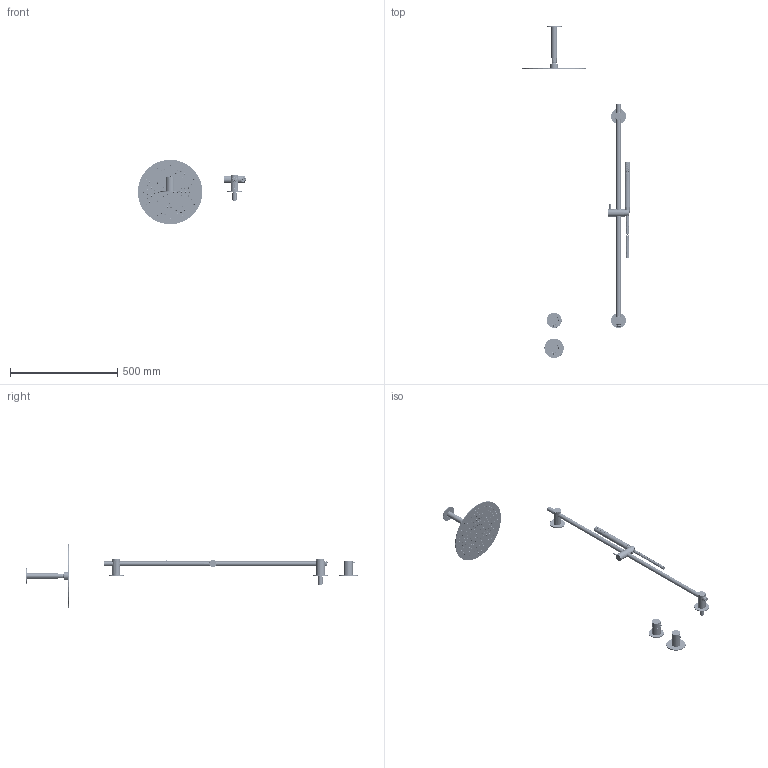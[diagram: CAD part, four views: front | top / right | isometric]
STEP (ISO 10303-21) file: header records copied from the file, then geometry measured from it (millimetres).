
FILE_DESCRIPTION((''),'2;1');
FILE_NAME('57073--_ASM','2025-06-26T14:18:25',('simi1'),(''),'CREO PARAMETRIC BY PTC INC, 2022244','CREO PARAMETRIC BY PTC INC, 2022244','');
FILE_SCHEMA(('CONFIG_CONTROL_DESIGN'));
Products named in the file (121): 46372--_1_1_2_3_4_5_6; 4396500_1_1_2_3_4_5_6; 4668000_1_1_2_3_4_5_6; 46373--_ASM_1_1_2_3_4_5_6_ASM; 44978--_1_1_2_3_4_5_6; 4642300_1_1_2_3_4_5_6; 4498000_1_1_2_3_4_5_6; 46498--_ASM_1_1_2_3_4_5_6_ASM; 46022--_1_1_2_3_4_5_6; 4600600_1_1_2_3_4_5_6; 1904300_1_1_2_3_4_5_6; 44986--_1_1_2_3_4_5_6; 4498800_1_1_2_3_4_5_6; 44989--_ASM_1_1_2_3_4_5_6_ASM; 4648800_1_1_2_3_4_5_6; 4642285_1_1_2_3_4_5_6; 76709--00_SUB01_ASM_1_1_2_3_4_6_ASM; 46493--_1_1_2_3_4; 4636100_1_1_2_3_4_5_6; 46494--_ASM_1_1_2_3_4_ASM; 4498500_1_1_2_3_4_5_6; 4653500_1_1_2_3_4; 46499--_ASM_1_1_2_3_4_ASM; 44979--_1_1_2_3_4_5_6; 44987--_1_1_2_3_4_5_6; 44990--_ASM_1_1_2_3_4_5_6_ASM; 4498300_1_1_2_3_4_5_6; 4625100_1_1_2_3_4_5_6; 76710--00_SUB01_ASM_1_1_2_3_4_ASM; 4443500_1_1_2; 4424300_1_1_2_3_4_5_6; 44246--_ASM_1_1_2_ASM; 46627--_1_1_2_3_4_5_6; 4443300_1_1_2_3_4_5_6; 76618--00_ASM_1_1_2_ASM; P32600-001_2_1_1_2_3_4_5_6_7; SPRAYPLATE_1_1_2_3_4_5_6_7; P32500-015_7_1_1_2_3_4_5_6_7; SPRAYPLATE_ASSY_ASM_1_1_2_3_4_7_ASM; P10100-003_2_1_1_2_3_4_5_6_7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
Assembly tree (299 placements, depth 7):
  57073--_ASM
    57070--_ASM_1_1_ASM
      76709--00_SUB01_ASM_1_1_2_3_4_6_ASM
        46373--_ASM_1_1_2_3_4_5_6_ASM
          46372--_1_1_2_3_4_5_6
          4396500_1_1_2_3_4_5_6
          4668000_1_1_2_3_4_5_6
        46498--_ASM_1_1_2_3_4_5_6_ASM
          44978--_1_1_2_3_4_5_6
          4642300_1_1_2_3_4_5_6
          4498000_1_1_2_3_4_5_6
        44989--_ASM_1_1_2_3_4_5_6_ASM
          46022--_1_1_2_3_4_5_6
          4600600_1_1_2_3_4_5_6
          1904300_1_1_2_3_4_5_6
          44986--_1_1_2_3_4_5_6
          4498800_1_1_2_3_4_5_6
        4648800_1_1_2_3_4_5_6
        4642285_1_1_2_3_4_5_6
      76710--00_SUB01_ASM_1_1_2_3_4_ASM
        46494--_ASM_1_1_2_3_4_ASM
          46493--_1_1_2_3_4
          4396500_1_1_2_3_4_5_6
          4636100_1_1_2_3_4_5_6
        46499--_ASM_1_1_2_3_4_ASM
          44978--_1_1_2_3_4_5_6
          4498500_1_1_2_3_4_5_6
          4653500_1_1_2_3_4
        44990--_ASM_1_1_2_3_4_5_6_ASM
          44979--_1_1_2_3_4_5_6
          4600600_1_1_2_3_4_5_6
          44987--_1_1_2_3_4_5_6
          4498800_1_1_2_3_4_5_6
        4498300_1_1_2_3_4_5_6
        4625100_1_1_2_3_4_5_6
      76618--00_ASM_1_1_2_ASM
        44246--_ASM_1_1_2_ASM
          4443500_1_1_2
          4424300_1_1_2_3_4_5_6
        46627--_1_1_2_3_4_5_6
        4443300_1_1_2_3_4_5_6
      91684--00_ASM_1_1_2_3_4_5_6_ASM
        46672--_ASM_1_1_2_3_4_5_6_7_ASM
          P42702_ASM_21_ASM_1_1_2_3_4_5_7_ASM
            SPRAYPLATE_ASSY_ASM_1_1_2_3_4_7_ASM
              P32600-001_2_1_1_2_3_4_5_6_7
              SPRAYPLATE_1_1_2_3_4_5_6_7
              P32500-015_7_1_1_2_3_4_5_6_7  x170
            F200-011_ASM_2_ASM_1_1_2_3_4__7_ASM
              P10100-003_2_1_1_2_3_4_5_6_7
              P24800-010_2_1_1_2_3_4_5_6_7
              30100069_2_1_1_2_3_4_5_6_7
            T10367_ASM_1_ASM_1_1_2_3_4_5__7_ASM
              T10364-001_34_1_1_2_3_4_5_6_7
              P26500-017_4_1_1_2_3_4_5_6_7
      76685--00_SUB01_ASM_1_1_2_3_ASM
        4420385_SUB01_ASM_1_1_2_3_ASM
          4420385_1_1_2_3
          4449100_1_1_2_3_4_5_6_7
          4420585_1_1_2_3_4_5_6
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Bounding box: 504 x 1545 x 300 mm (x, y, z)
Volume: 615955.8 mm3; surface area: 833061 mm2
Topology: 261 solids, 264 shells, 14787 faces, 41072 edges, 27939 vertices
Faces by surface type: plane 5230, cylinder 4561, torus 2615, cone 1892, bspline 378, sphere 105, extrusion 4, revolution 2
Entity records: 324278 total; most frequent: CARTESIAN_POINT 125700, ORIENTED_EDGE 42808, DIRECTION 39062, EDGE_CURVE 21404, VERTEX_POINT 14243, AXIS2_PLACEMENT_3D 13900, VECTOR 11260, LINE 11256
